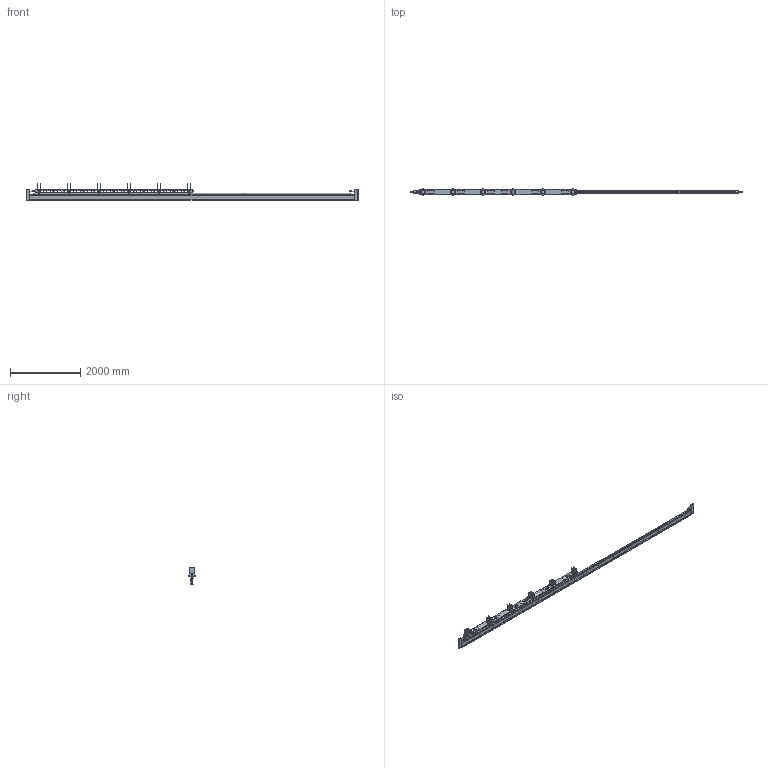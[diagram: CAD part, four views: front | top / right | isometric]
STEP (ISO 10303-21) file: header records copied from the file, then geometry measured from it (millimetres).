
FILE_DESCRIPTION(('STEP AP214'), '1');
FILE_NAME('Òåëåæêà íà ðåëüñàõ', '', ('UNSPECIFIED'), ('UNSPECIFIED'), 'C3D Converter', 'C3D Toolkit', '');
FILE_SCHEMA(('AUTOMOTIVE_DESIGN { 1 0 10303 214 3 1 1}'));
Length unit declared in the file: millimetre
Products named in the file (40): ТК1.00.00.000; ТК1.01.00.000; ТК1.01.01.000; ТК1.01.01.001-01; ТК1.01.01.001; ТК1.01.01.004; ТК1.01.01.004-01; ТК1.01.01.003; ТК1.01.01.002; ТК1.01.00.001; ТК1.02.00.000; ТК1.02.01.000; ТК1.02.01.001; ТК1.02.00.001; ТК1.03.00.000; ТК1.03.00.001; ТК1.03.00.002
Assembly tree (126 placements, depth 4):
  ТК1.00.00.000
    ТК1.01.00.000
      (unnamed)  x6
      ТК1.01.01.000
        ТК1.01.01.001-01
        ТК1.01.01.001
        ТК1.01.01.004
        ТК1.01.01.004-01  x5
        ТК1.01.01.004
        ТК1.01.01.003
        ТК1.01.01.002
        (unnamed)  x2
      ТК1.01.00.001  x6
      (unnamed)  x6
      (unnamed)  x6
      (unnamed)  x6
      (unnamed)  x6
      (unnamed)  x6
      (unnamed)  x6
      (unnamed)  x6
      (unnamed)  x6
      (unnamed)  x6
      (unnamed)  x6
      (unnamed)
      (unnamed)
    (unnamed)  x3
    ТК1.02.00.000
      ТК1.02.01.000
        (unnamed)
        ТК1.02.01.001  x16
      ТК1.02.00.001
      ТК1.02.00.001
      (unnamed)
      (unnamed)
    (unnamed)
    (unnamed)
    ТК1.03.00.000  x6
      ТК1.03.00.001
      ТК1.03.00.002
      ТК1.03.00.002
Bounding box: 9440 x 199.2 x 469.47 mm (x, y, z)
Volume: 46282593.4 mm3; surface area: 13822018.4 mm2
Topology: 131 solids, 137 shells, 2702 faces, 6966 edges, 4650 vertices
Faces by surface type: plane 1527, cylinder 1019, cone 86, torus 58, sphere 12
Full cylindrical faces by diameter (mm): 2 x24, 6.6 x180, 10.106 x16, 11 x74, 12 x28, 13 x14, 23.5 x12, 25 x30, 26 x12, 37 x12, 39 x12, 39.864 x2, 40 x24, 50 x18, 72 x12
Entity records: 64377 total; most frequent: CARTESIAN_POINT 10912, DIRECTION 7962, ORIENTED_EDGE 7294, EDGE_CURVE 3647, AXIS2_PLACEMENT_3D 2837, VERTEX_POINT 2591, EDGE_LOOP 2290, LINE 2288
